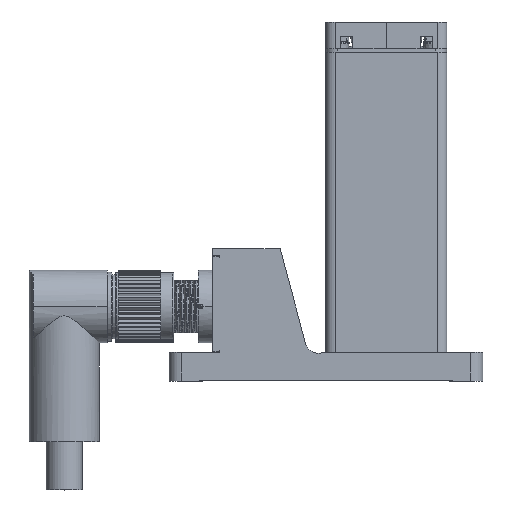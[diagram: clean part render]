
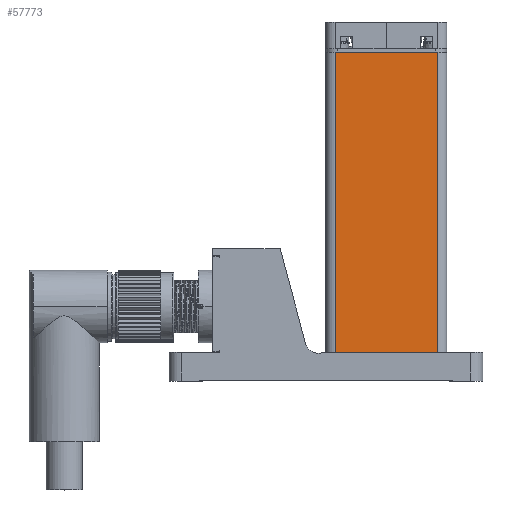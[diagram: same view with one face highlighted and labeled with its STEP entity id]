
A CAD part, top view. The second image highlights one B-rep face of the part: STEP entity #57773.
In plain terms, the highlighted planar face has unit normal (0, 0, 1).
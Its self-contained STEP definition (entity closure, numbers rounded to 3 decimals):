
#16879=DIRECTION('',(1.,0.,0.));
#16880=VECTOR('',#16879,21.15);
#16881=CARTESIAN_POINT('',(-10.575,-9.7,12.575));
#16882=LINE('',#16881,#16880);
#19089=DIRECTION('',(0.,-1.,0.));
#19090=VECTOR('',#19089,62.2);
#19091=CARTESIAN_POINT('',(-10.575,52.5,12.575));
#19092=LINE('',#19091,#19090);
#19093=DIRECTION('',(-1.,0.,0.));
#19094=VECTOR('',#19093,21.15);
#19095=CARTESIAN_POINT('',(10.575,52.5,12.575));
#19096=LINE('',#19095,#19094);
#19097=DIRECTION('',(0.,1.,0.));
#19098=VECTOR('',#19097,62.2);
#19099=CARTESIAN_POINT('',(10.575,-9.7,12.575));
#19100=LINE('',#19099,#19098);
#25382=CARTESIAN_POINT('',(10.575,52.5,12.575));
#25384=VERTEX_POINT('',#25382);
#25391=CARTESIAN_POINT('',(-10.575,52.5,12.575));
#25393=VERTEX_POINT('',#25391);
#25410=CARTESIAN_POINT('',(-10.575,-9.7,12.575));
#25411=CARTESIAN_POINT('',(10.575,-9.7,12.575));
#25412=VERTEX_POINT('',#25410);
#25413=VERTEX_POINT('',#25411);
#57760=CARTESIAN_POINT('',(0.,-15.7,12.575));
#57761=DIRECTION('',(0.,0.,1.));
#57762=DIRECTION('',(1.,0.,0.));
#57763=AXIS2_PLACEMENT_3D('',#57760,#57761,#57762);
#57764=PLANE('',#57763);
#57765=ORIENTED_EDGE('',*,*,#55876,.F.);
#57767=ORIENTED_EDGE('',*,*,#57766,.F.);
#57769=ORIENTED_EDGE('',*,*,#57768,.F.);
#57770=ORIENTED_EDGE('',*,*,#57752,.F.);
#57771=EDGE_LOOP('',(#57765,#57767,#57769,#57770));
#57772=FACE_OUTER_BOUND('',#57771,.F.);
#57773=ADVANCED_FACE('',(#57772),#57764,.T.);
#55876=EDGE_CURVE('',#25412,#25413,#16882,.T.);
#57752=EDGE_CURVE('',#25413,#25384,#19100,.T.);
#57766=EDGE_CURVE('',#25393,#25412,#19092,.T.);
#57768=EDGE_CURVE('',#25384,#25393,#19096,.T.);
